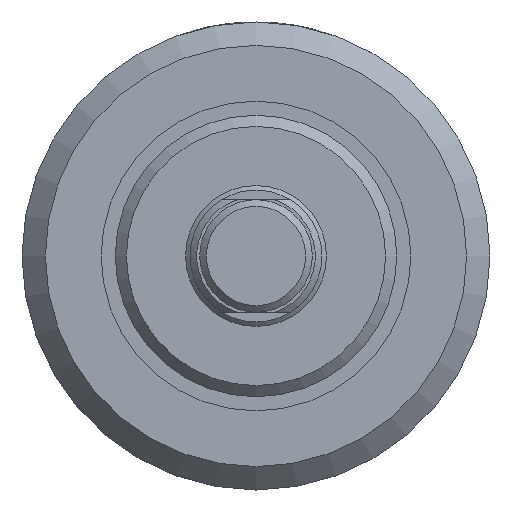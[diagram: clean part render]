
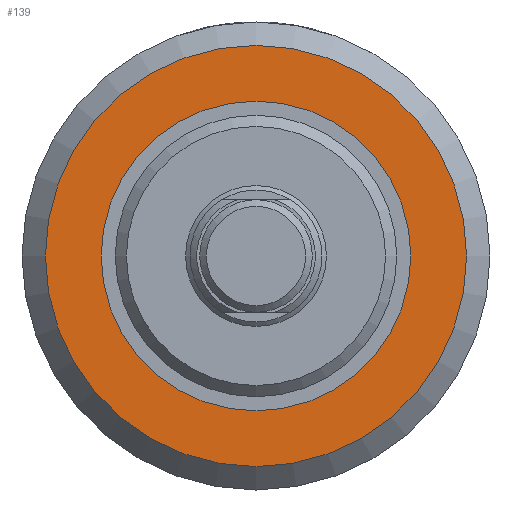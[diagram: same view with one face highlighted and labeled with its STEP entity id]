
A CAD part, left-side view. The second image highlights one B-rep face of the part: STEP entity #139.
In plain terms, the highlighted planar face has unit normal (-1, 0, 0).
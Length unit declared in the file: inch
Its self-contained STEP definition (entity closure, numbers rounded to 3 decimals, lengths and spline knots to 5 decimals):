
#139 = ADVANCED_FACE( '', ( #313, #314 ), #315, .F. );
#313 = FACE_OUTER_BOUND( '', #567, .T. );
#314 = FACE_BOUND( '', #568, .T. );
#315 = PLANE( '', #569 );
#567 = EDGE_LOOP( '', ( #817 ) );
#568 = EDGE_LOOP( '', ( #818 ) );
#569 = AXIS2_PLACEMENT_3D( '', #819, #820, #821 );
#817 = ORIENTED_EDGE( '', *, *, #1254, .F. );
#818 = ORIENTED_EDGE( '', *, *, #1242, .T. );
#819 = CARTESIAN_POINT( '', ( 0.813, 0.6875, 0. ) );
#820 = DIRECTION( '', ( 1., 0., 0. ) );
#821 = DIRECTION( '', ( 0., 0., -1. ) );
#1242 = EDGE_CURVE( '', #1401, #1401, #1402, .T. );
#1254 = EDGE_CURVE( '', #1421, #1421, #1422, .T. );
#1401 = VERTEX_POINT( '', #1636 );
#1402 = CIRCLE( '', #1637, 0.6875 );
#1421 = VERTEX_POINT( '', #1656 );
#1422 = CIRCLE( '', #1657, 0.9351 );
#1636 = CARTESIAN_POINT( '', ( 0.813, 0., -0.6875 ) );
#1637 = AXIS2_PLACEMENT_3D( '', #2106, #2107, #2108 );
#1656 = CARTESIAN_POINT( '', ( 0.813, 0., -0.9351 ) );
#1657 = AXIS2_PLACEMENT_3D( '', #2130, #2131, #2132 );
#2106 = CARTESIAN_POINT( '', ( 0.813, 0., 0. ) );
#2107 = DIRECTION( '', ( 1., 0., 0. ) );
#2108 = DIRECTION( '', ( 0., 0., -1. ) );
#2130 = CARTESIAN_POINT( '', ( 0.813, 0., 0. ) );
#2131 = DIRECTION( '', ( 1., 0., 0. ) );
#2132 = DIRECTION( '', ( 0., 0., -1. ) );
